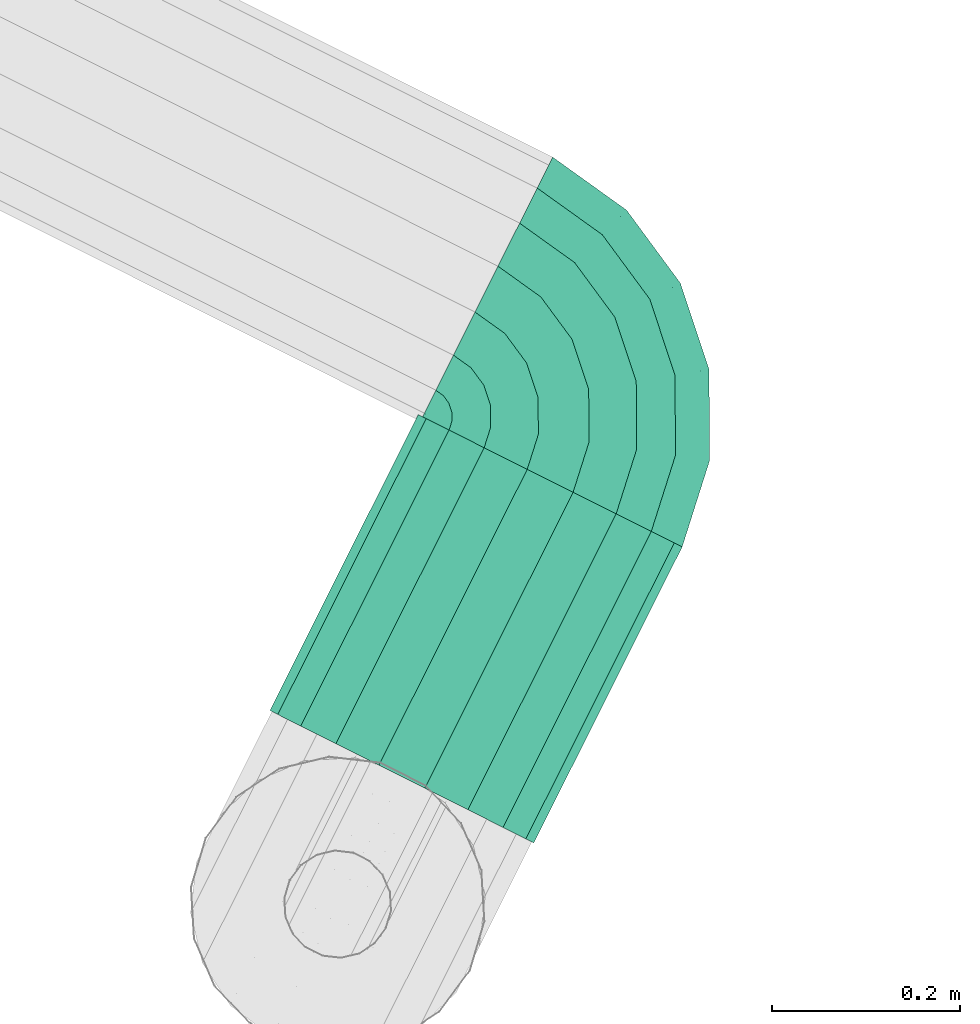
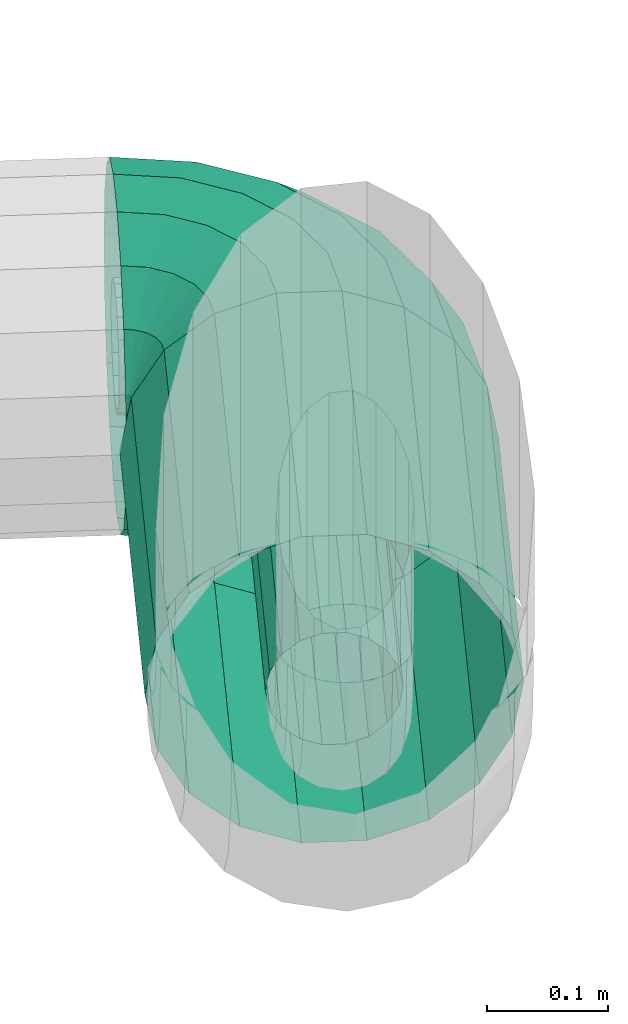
# One storey, part 37 of 206: 2 flow segments.
"""IFC2X3 building model written with IfcOpenShell, lengths in metres."""

import ifcopenshell
import ifcopenshell.guid

model = None  # the IFC model being written
_history = None  # IfcOwnerHistory: only IFC2X3 demands one
_inside = {}  # id of a spatial element -> (the spatial element, [elements in it])
_under = {}  # id of a project, library or spatial element -> (it, [spatial elements below it])
_declared = {}  # id of a project -> (the project, [libraries it declares])
_typed = {}  # id of a type object -> (the type object, [elements of that type])
_made_of = {}  # id of a material, layer set ... -> (it, [elements and type objects made of it])


def new_model(schema):
    """Start an empty IFC model of exactly this schema.

    Asked for "IFC4X3", IfcOpenShell would pick the latest addendum, in which some entities
    have other attributes; the version numbers below select the first issue.
    IFC2X3 requires an IfcOwnerHistory on every rooted entity: one is made here for all.
    """
    global model, _history
    if schema == "IFC4X3":
        model = ifcopenshell.file(schema_version=(4, 3, 0, 0))
    else:
        model = ifcopenshell.file(schema=schema)
    _inside.clear()
    _under.clear()
    _declared.clear()
    _typed.clear()
    _made_of.clear()
    _history = None
    if model.schema == "IFC2X3":
        org = make("IfcOrganization", Name="unknown")
        user = make(
            "IfcPersonAndOrganization",
            ThePerson=make("IfcPerson", FamilyName="unknown"),
            TheOrganization=org,
        )
        app = make(
            "IfcApplication",
            ApplicationDeveloper=org,
            Version="unknown",
            ApplicationFullName="unknown",
            ApplicationIdentifier="unknown",
        )
        _history = make(
            "IfcOwnerHistory",
            OwningUser=user,
            OwningApplication=app,
            ChangeAction="ADDED",
            CreationDate=0,
        )
    return model


def make(cls, **values):
    """One entity of the class cls with the attributes given. An attribute that is None is left unset."""
    return model.create_entity(
        cls, **{name: value for name, value in values.items() if value is not None}
    )


def rooted(cls, **values):
    """An entity with a GlobalId (a new one), such as an element, a storey or a relation."""
    return make(cls, GlobalId=ifcopenshell.guid.new(), OwnerHistory=_history, **values)


def si_unit(unit_type, name, prefix=None):
    """IfcSIUnit, for example si_unit("LENGTHUNIT", "METRE", prefix="MILLI")."""
    return make("IfcSIUnit", UnitType=unit_type, Prefix=prefix, Name=name)


def derived_unit(unit_type, elements):
    """IfcDerivedUnit: a product of units, each with its exponent."""
    return make(
        "IfcDerivedUnit",
        Elements=[
            make("IfcDerivedUnitElement", Unit=unit, Exponent=power)
            for unit, power in elements
        ],
        UnitType=unit_type,
    )


def assignment(units):
    """IfcUnitAssignment: the units of a project."""
    return None if units is None else make("IfcUnitAssignment", Units=units)


def point(xyz):
    """IfcCartesianPoint."""
    return None if xyz is None else make("IfcCartesianPoint", Coordinates=xyz)


def direction(xyz):
    """IfcDirection."""
    return None if xyz is None else make("IfcDirection", DirectionRatios=xyz)


def frame(location, z_axis=None, x_axis=None):
    """IfcAxis2Placement3D, a coordinate frame: its origin and axes. An axis left out is left unset."""
    return make(
        "IfcAxis2Placement3D",
        Location=point(location),
        Axis=direction(z_axis),
        RefDirection=direction(x_axis),
    )


def origin():
    """The frame at (0, 0, 0) with its axes left unset."""
    return frame((0.0, 0.0, 0.0))


def place(relative_to, where):
    """IfcLocalPlacement: puts the frame where relative to a parent placement (None: the world)."""
    return make(
        "IfcLocalPlacement", PlacementRelTo=relative_to, RelativePlacement=where
    )


def context(
    kind, dimensions, precision=None, world=None, true_north=None, identifier=None
):
    """IfcGeometricRepresentationContext, for example the 3D "Model" context."""
    return make(
        "IfcGeometricRepresentationContext",
        ContextIdentifier=identifier,
        ContextType=kind,
        CoordinateSpaceDimension=dimensions,
        Precision=precision,
        WorldCoordinateSystem=world,
        TrueNorth=true_north,
    )


def subcontext(parent, identifier, kind, view, scale=None):
    """IfcGeometricRepresentationSubContext, for example "Body" below "Model"."""
    return make(
        "IfcGeometricRepresentationSubContext",
        ContextIdentifier=identifier,
        ContextType=kind,
        ParentContext=parent,
        TargetScale=scale,
        TargetView=view,
    )


def project(units=None, contexts=None):
    """IfcProject with its units and contexts."""
    return rooted(
        "IfcProject",
        Name="project",
        RepresentationContexts=contexts,
        UnitsInContext=assignment(units),
    )


def spatial(cls, under=None, at=None, **own):
    """A site, building, storey or space (cls), placed at a placement, below another one or the project."""
    s = rooted(cls, ObjectPlacement=at, **own)
    if under is not None:
        _under.setdefault(under.id(), (under, []))[1].append(s)
    return s


def faces_of(points, faces, orient=None, outer=None):
    """IfcFace entities. A face is a list of loops; a loop is a list of indices into points, from 0.

    orient and outer hold one flag for each loop. By default every Orientation is true, the
    first loop of a face is its IfcFaceOuterBound and the others are IfcFaceBound.
    """
    made = []
    for i, loops in enumerate(faces):
        bounds = []
        for j, loop in enumerate(loops):
            is_outer = j == 0 if outer is None else outer[i][j]
            bounds.append(
                make(
                    "IfcFaceOuterBound" if is_outer else "IfcFaceBound",
                    Bound=make("IfcPolyLoop", Polygon=[points[k] for k in loop]),
                    Orientation=True if orient is None else orient[i][j],
                )
            )
        made.append(make("IfcFace", Bounds=bounds))
    return made


def face_set(faces, orient=None, outer=None):
    """The faces of one IfcConnectedFaceSet. surface_model builds it on its shared points."""
    return ("IfcConnectedFaceSet", faces, orient, outer)


def surface_model(cls, points, shells):
    """IfcFaceBasedSurfaceModel or IfcShellBasedSurfaceModel (cls): surfaces that need not close."""
    shared = [point(p) for p in points]
    made = [make(c, CfsFaces=faces_of(shared, fs, o, b)) for c, fs, o, b in shells]
    if cls == "IfcFaceBasedSurfaceModel":
        return make(cls, FbsmFaces=made)
    return make(cls, SbsmBoundary=made)


def shape(context_of_items, identifier, shape_type, items):
    """IfcShapeRepresentation: the items that make up one representation, for example the "Body"."""
    return make(
        "IfcShapeRepresentation",
        ContextOfItems=context_of_items,
        RepresentationIdentifier=identifier,
        RepresentationType=shape_type,
        Items=items,
    )


def source(mapping_origin, context_of_items, identifier, shape_type, items):
    """IfcRepresentationMap: a shape defined once, which mapped items show again and again."""
    return make(
        "IfcRepresentationMap",
        MappingOrigin=mapping_origin,
        MappedRepresentation=shape(context_of_items, identifier, shape_type, items),
    )


def transform(
    local_origin,
    x_axis=None,
    y_axis=None,
    z_axis=None,
    scale=None,
    scale2=None,
    scale3=None,
    uniform=True,
):
    """IfcCartesianTransformationOperator3D, or its non-uniform kind. x_axis, y_axis, z_axis: its Axis1, 2, 3."""
    if uniform:
        return make(
            "IfcCartesianTransformationOperator3D",
            Axis1=direction(x_axis),
            Axis2=direction(y_axis),
            LocalOrigin=point(local_origin),
            Scale=scale,
            Axis3=direction(z_axis),
        )
    return make(
        "IfcCartesianTransformationOperator3DnonUniform",
        Axis1=direction(x_axis),
        Axis2=direction(y_axis),
        LocalOrigin=point(local_origin),
        Scale=scale,
        Axis3=direction(z_axis),
        Scale2=scale2,
        Scale3=scale3,
    )


def mapped(mapping_source, mapping_target):
    """IfcMappedItem: shows the shape of a source again, moved by a transform."""
    return make(
        "IfcMappedItem", MappingSource=mapping_source, MappingTarget=mapping_target
    )


def material(Name=None, Category=None):
    """IfcMaterial."""
    return make("IfcMaterial", Name=Name, Category=Category)


def made_of(thing, what):
    """Note that an element or type object is made of a material, layer set ...; save() writes the relation."""
    if what is not None:
        _made_of.setdefault(what.id(), (what, []))[1].append(thing)
    return thing


def type_object(cls, material=None, **own):
    """A type object (cls), such as IfcWallType, which elements share."""
    return made_of(rooted(cls, **own), material)


def type_shapes(of_type, sources):
    """Give a type object the sources (RepresentationMaps) that its elements show as mapped items."""
    of_type.RepresentationMaps = sources


def element(
    cls,
    number,
    at=None,
    inside=None,
    cuts=None,
    type_object=None,
    material=None,
    context=None,
    identifier="Body",
    shape_type=None,
    held_by="IfcProductDefinitionShape",
    body=None,
    shapes=None,
    **own,
):
    """One element of the class cls, such as IfcWall. Its Tag is "e" and its number.

    at: its placement. inside: the storey or other place that contains it. cuts: it is an
    opening in that element (IfcRelVoidsElement). A single representation is given by context,
    identifier, shape_type and body (its items); several are given by shapes. held_by: the class
    of the entity that holds the representations. save() writes the other relations.
    """
    e = rooted(cls, Tag="e%d" % number, ObjectPlacement=at, **own)
    if body is not None:
        shapes = [shape(context, identifier, shape_type, body)]
    if shapes is not None:
        e.Representation = make(held_by, Representations=shapes)
    if inside is not None:
        _inside.setdefault(inside.id(), (inside, []))[1].append(e)
    if cuts is not None:
        rooted(
            "IfcRelVoidsElement", RelatingBuildingElement=cuts, RelatedOpeningElement=e
        )
    if type_object is not None:
        _typed.setdefault(type_object.id(), (type_object, []))[1].append(e)
    return made_of(e, material)


def aggregate(whole, parts):
    """IfcRelAggregates: a whole, such as a stair, and the parts it consists of."""
    return rooted("IfcRelAggregates", RelatingObject=whole, RelatedObjects=parts)


def save(model, path):
    """Write the relations noted so far, then the file.

    IfcRelAggregates (storeys below a building ...), IfcRelContainedInSpatialStructure (elements
    in a storey), IfcRelDefinesByType, IfcRelAssociatesMaterial and IfcRelDeclares: one each for
    every whole, place, type object, material and project.
    """
    for whole, parts in _under.values():
        aggregate(whole, parts)
    for where, things in _inside.values():
        rooted(
            "IfcRelContainedInSpatialStructure",
            RelatedElements=things,
            RelatingStructure=where,
        )
    for kind, things in _typed.values():
        rooted("IfcRelDefinesByType", RelatedObjects=things, RelatingType=kind)
    for what, things in _made_of.values():
        rooted("IfcRelAssociatesMaterial", RelatedObjects=things, RelatingMaterial=what)
    for by, libraries in _declared.values():
        rooted("IfcRelDeclares", RelatingContext=by, RelatedDefinitions=libraries)
    model.write(path)


model = new_model("IFC2X3")

# Units and contexts
model_context = context("Model", 3, precision=5.2338327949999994e-05, world=origin(), true_north=direction((0.0, 1.0)))
body_context = subcontext(model_context, "Body", "Model", "MODEL_VIEW")
ifc_project = project(units=[si_unit("LENGTHUNIT", "METRE"), si_unit("AREAUNIT", "SQUARE_METRE"), si_unit("VOLUMEUNIT", "CUBIC_METRE"), si_unit("MASSUNIT", "GRAM", prefix="KILO"), si_unit("PLANEANGLEUNIT", "RADIAN"), derived_unit("THERMALTRANSMITTANCEUNIT", [(si_unit("MASSUNIT", "GRAM", prefix="KILO"), 1), (si_unit("THERMODYNAMICTEMPERATUREUNIT", "KELVIN"), -1), (si_unit("TIMEUNIT", "SECOND"), -3)])], contexts=[model_context])

# Site, building, storey
site_placement = place(None, frame((0.0, 0.0, 0.0), z_axis=(0.0, 0.0, 1.0), x_axis=(0.8939966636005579, -0.4480736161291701, 0.0)))
site = spatial("IfcSite", under=ifc_project, at=site_placement, Name="Default", CompositionType="ELEMENT")
building_placement = place(site_placement, origin())
building = spatial("IfcBuilding", under=site, at=building_placement, CompositionType="ELEMENT")
storey_placement = place(building_placement, origin())
storey = spatial("IfcBuildingStorey", under=building, at=storey_placement, Name="Erdgeschoss", CompositionType="ELEMENT", Elevation=0.0)

# Flow segments
ifc_material = material(Name="IfcSurfaceStyle #1741")
distribution_element_type_1 = type_object("IfcDistributionElementType", Name="Rohrbogen 292589:Rohrbogen 292589", material=ifc_material)
shared_shape_1 = source(origin(), body_context, "Body", "SurfaceModel", [
    surface_model("IfcFaceBasedSurfaceModel", [(17.538863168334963, 8.059122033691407, 2.317798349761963), (17.47423222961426, 8.069358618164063, 2.317798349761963), (17.53779811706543, 8.055843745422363, 2.3373448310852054), (17.47423222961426, 8.065911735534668, 2.3373448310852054), (17.597167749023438, 8.029414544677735, 2.317798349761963), (17.595142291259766, 8.026625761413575, 2.3373448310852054), (17.64343818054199, 7.983143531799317, 2.317798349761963), (17.640649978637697, 7.981118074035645, 2.3373448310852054), (17.673145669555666, 7.9248395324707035, 2.317798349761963), (17.669867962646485, 7.923774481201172, 2.3373448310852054), (17.68338225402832, 7.86020859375, 2.317798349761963), (17.67993595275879, 7.86020859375, 2.3373448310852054), (17.47423222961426, 8.055987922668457, 2.354533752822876), (17.534732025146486, 8.046405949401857, 2.354533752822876), (17.589308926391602, 8.01859718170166, 2.354533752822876), (17.63262139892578, 7.975284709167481, 2.354533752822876), (17.66043016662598, 7.920707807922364, 2.354533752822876), (17.670012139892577, 7.86020859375, 2.354533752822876), (17.530033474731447, 8.031945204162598, 2.3672916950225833), (17.47423222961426, 8.040783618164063, 2.3672916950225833), (17.580372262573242, 8.006296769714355, 2.3672916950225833), (17.620320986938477, 7.966347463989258, 2.3672916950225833), (17.64596942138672, 7.916009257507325, 2.3672916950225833), (17.65480725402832, 7.86020859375, 2.3672916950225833), (17.47423222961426, 8.022132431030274, 2.3740802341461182), (17.524269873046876, 8.014207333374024, 2.3740802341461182), (17.569408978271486, 7.991207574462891, 2.3740802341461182), (17.605231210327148, 7.955384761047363, 2.3740802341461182), (17.62823096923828, 7.910245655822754, 2.3740802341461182), (17.636156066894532, 7.86020859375, 2.3740802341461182), (17.518136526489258, 7.995330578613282, 2.3740802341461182), (17.47423222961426, 8.00228422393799, 2.3740802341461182), (17.557742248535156, 7.975150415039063, 2.3740802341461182), (17.58917405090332, 7.9437186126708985, 2.3740802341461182), (17.60935421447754, 7.9041123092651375, 2.3740802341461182), (17.61630844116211, 7.86020859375, 2.3740802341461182), (17.47423222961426, 7.983633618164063, 2.3672916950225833), (17.512372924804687, 7.977592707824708, 2.3672916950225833), (17.546780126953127, 7.960061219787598, 2.3672916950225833), (17.57408543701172, 7.932755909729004, 2.3672916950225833), (17.59161692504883, 7.898348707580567, 2.3672916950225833), (17.59765725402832, 7.86020859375, 2.3672916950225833), (17.507674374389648, 7.963132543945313, 2.354533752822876), (17.47423222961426, 7.968428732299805, 2.354533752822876), (17.537843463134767, 7.947760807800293, 2.354533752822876), (17.561785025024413, 7.923818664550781, 2.354533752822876), (17.57715617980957, 7.893650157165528, 2.354533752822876), (17.58245353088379, 7.86020859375, 2.354533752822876), (17.504608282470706, 7.953694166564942, 2.3373448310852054), (17.47423222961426, 7.958504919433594, 2.3373448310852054), (17.532010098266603, 7.9397322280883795, 2.3373448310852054), (17.5537564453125, 7.917985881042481, 2.3373448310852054), (17.567718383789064, 7.8905834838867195, 2.3373448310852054), (17.572528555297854, 7.86020859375, 2.3373448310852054), (17.503543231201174, 7.950415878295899, 2.317798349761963), (17.47423222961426, 7.955058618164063, 2.317798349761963), (17.529983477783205, 7.9369434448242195, 2.317798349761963), (17.550968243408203, 7.915959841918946, 2.317798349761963), (17.564440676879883, 7.889518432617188, 2.317798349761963), (17.56908225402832, 7.86020859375, 2.317798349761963), (17.47423222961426, 7.958504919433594, 2.298252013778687), (17.504608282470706, 7.953694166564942, 2.298252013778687), (17.532010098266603, 7.9397322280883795, 2.298252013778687), (17.5537564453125, 7.917985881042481, 2.298252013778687), (17.567718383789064, 7.8905834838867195, 2.298252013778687), (17.572528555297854, 7.86020859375, 2.298252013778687), (17.47423222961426, 7.968428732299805, 2.2810630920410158), (17.507674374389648, 7.963132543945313, 2.2810630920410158), (17.537843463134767, 7.947760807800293, 2.2810630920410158), (17.561785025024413, 7.923818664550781, 2.2810630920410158), (17.57715617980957, 7.893650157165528, 2.2810630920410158), (17.58245353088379, 7.86020859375, 2.2810630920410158), (17.47423222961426, 7.983633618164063, 2.268305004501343), (17.512372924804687, 7.977592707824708, 2.268305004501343), (17.546780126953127, 7.960061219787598, 2.268305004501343), (17.57408543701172, 7.932755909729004, 2.268305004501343), (17.59161692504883, 7.898348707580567, 2.268305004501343), (17.59765725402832, 7.86020859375, 2.268305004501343), (17.47423222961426, 8.00228422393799, 2.2615166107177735), (17.518136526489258, 7.995330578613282, 2.2615166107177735), (17.557742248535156, 7.975150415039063, 2.2615166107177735), (17.58917405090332, 7.9437186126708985, 2.2615166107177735), (17.60935421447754, 7.9041123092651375, 2.2615166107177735), (17.61630844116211, 7.86020859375, 2.2615166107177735), (17.47423222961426, 8.022132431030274, 2.2615166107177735), (17.524269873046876, 8.014207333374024, 2.2615166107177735), (17.569408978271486, 7.991207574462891, 2.2615166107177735), (17.605231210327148, 7.955384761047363, 2.2615166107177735), (17.62823096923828, 7.910245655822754, 2.2615166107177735), (17.636156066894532, 7.86020859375, 2.2615166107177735), (17.530033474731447, 8.031945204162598, 2.268305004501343), (17.47423222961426, 8.040783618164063, 2.268305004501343), (17.580372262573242, 8.006296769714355, 2.268305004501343), (17.620320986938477, 7.966347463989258, 2.268305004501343), (17.64596942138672, 7.916009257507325, 2.268305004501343), (17.65480725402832, 7.86020859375, 2.268305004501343), (17.47423222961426, 8.055987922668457, 2.2810630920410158), (17.534732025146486, 8.046405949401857, 2.2810630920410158), (17.589308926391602, 8.01859718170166, 2.2810630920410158), (17.63262139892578, 7.975284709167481, 2.2810630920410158), (17.66043016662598, 7.920707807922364, 2.2810630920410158), (17.670012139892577, 7.86020859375, 2.2810630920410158), (17.53779811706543, 8.055843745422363, 2.298252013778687), (17.47423222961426, 8.065911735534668, 2.298252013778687), (17.595142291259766, 8.026625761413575, 2.298252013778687), (17.640649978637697, 7.981118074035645, 2.298252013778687), (17.569764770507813, 8.15422727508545, 2.317798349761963), (17.47423222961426, 8.169358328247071, 2.317798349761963), (17.47423222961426, 8.15988099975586, 2.3715468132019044), (17.566835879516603, 8.145213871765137, 2.3715468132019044), (17.65594671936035, 8.110316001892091, 2.317798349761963), (17.65037612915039, 8.102648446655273, 2.3715468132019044), (17.72434021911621, 8.041921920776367, 2.317798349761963), (17.71667324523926, 8.036351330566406, 2.3715468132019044), (17.76825149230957, 7.955741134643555, 2.317798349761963), (17.75923808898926, 7.952812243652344, 2.3715468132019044), (17.783381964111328, 7.86020859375, 2.317798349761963), (17.773904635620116, 7.86020859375, 2.3715468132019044), (17.558403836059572, 8.119260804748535, 2.4188125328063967), (17.47423222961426, 8.132592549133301, 2.4188125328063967), (17.634335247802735, 8.080571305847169, 2.4188125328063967), (17.69459552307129, 8.020311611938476, 2.4188125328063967), (17.73328502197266, 7.944379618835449, 2.4188125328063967), (17.746616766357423, 7.86020859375, 2.4188125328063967), (17.54548369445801, 8.07949811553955, 2.453894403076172), (17.47423222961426, 8.090783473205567, 2.453894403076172), (17.609761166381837, 8.046747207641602, 2.453894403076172), (17.660772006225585, 7.995736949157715, 2.453894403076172), (17.693522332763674, 7.931460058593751, 2.453894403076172), (17.70480769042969, 7.86020859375, 2.453894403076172), (17.47423222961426, 8.039497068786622, 2.472560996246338), (17.52963582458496, 8.030722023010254, 2.472560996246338), (17.57961533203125, 8.005256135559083, 2.472560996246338), (17.619280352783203, 7.965591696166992, 2.472560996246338), (17.644746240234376, 7.91561160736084, 2.472560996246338), (17.653521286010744, 7.86020859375, 2.472560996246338), (17.512770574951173, 7.978815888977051, 2.472560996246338), (17.47423222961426, 7.984919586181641, 2.472560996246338), (17.547535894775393, 7.961101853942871, 2.472560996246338), (17.57512607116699, 7.9335116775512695, 2.472560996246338), (17.592840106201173, 7.898746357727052, 2.472560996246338), (17.5989432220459, 7.86020859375, 2.472560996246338), (17.47423222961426, 7.933633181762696, 2.453894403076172), (17.4969215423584, 7.930039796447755, 2.453894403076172), (17.517390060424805, 7.919610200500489, 2.453894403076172), (17.53363441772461, 7.903366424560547, 2.453894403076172), (17.544064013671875, 7.882897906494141, 2.453894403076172), (17.54765798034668, 7.86020859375, 2.453894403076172), (17.48400256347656, 7.89027710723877, 2.4188125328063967), (17.47423222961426, 7.891824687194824, 2.4188125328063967), (17.492815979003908, 7.885786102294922, 2.4188125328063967), (17.499810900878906, 7.878791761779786, 2.4188125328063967), (17.50430132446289, 7.8699783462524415, 2.4188125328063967), (17.505848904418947, 7.86020859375, 2.4188125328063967), (17.47423222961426, 7.864535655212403, 2.3715468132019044), (17.475569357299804, 7.864324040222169, 2.3715468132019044), (17.476776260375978, 7.86370954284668, 2.3715468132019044), (17.47773317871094, 7.862752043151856, 2.3715468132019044), (17.47834825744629, 7.861545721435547, 2.3715468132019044), (17.478559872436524, 7.86020859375, 2.3715468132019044), (17.47423222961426, 7.860208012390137, 2.347004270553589), (17.47497520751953, 7.860208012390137, 2.3476719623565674), (17.47423222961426, 7.860208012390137, 2.288592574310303), (17.47497520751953, 7.860208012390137, 2.2879248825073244), (17.475569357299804, 7.864324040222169, 2.2640498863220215), (17.47423222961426, 7.864535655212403, 2.2640498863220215), (17.476776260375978, 7.86370954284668, 2.2640498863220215), (17.47773317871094, 7.862752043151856, 2.2640498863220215), (17.47834825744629, 7.861545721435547, 2.2640498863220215), (17.478559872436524, 7.86020859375, 2.2640498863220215), (17.47423222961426, 7.891824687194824, 2.216784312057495), (17.48400256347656, 7.89027710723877, 2.216784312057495), (17.492815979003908, 7.885786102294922, 2.216784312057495), (17.499810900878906, 7.878791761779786, 2.216784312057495), (17.50430132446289, 7.8699783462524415, 2.216784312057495), (17.505848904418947, 7.86020859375, 2.216784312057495), (17.47423222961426, 7.933633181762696, 2.1817025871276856), (17.4969215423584, 7.930039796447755, 2.1817025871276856), (17.517390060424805, 7.919610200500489, 2.1817025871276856), (17.53363441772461, 7.903366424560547, 2.1817025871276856), (17.544064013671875, 7.882897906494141, 2.1817025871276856), (17.54765798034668, 7.86020859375, 2.1817025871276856), (17.47423222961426, 7.984919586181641, 2.163035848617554), (17.512770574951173, 7.978815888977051, 2.163035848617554), (17.547535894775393, 7.961101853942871, 2.163035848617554), (17.57512607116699, 7.9335116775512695, 2.163035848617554), (17.592840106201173, 7.898746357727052, 2.163035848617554), (17.5989432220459, 7.86020859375, 2.163035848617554), (17.52963582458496, 8.030722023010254, 2.163035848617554), (17.47423222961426, 8.039497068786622, 2.163035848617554), (17.57961533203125, 8.005256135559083, 2.163035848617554), (17.619280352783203, 7.965591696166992, 2.163035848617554), (17.644746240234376, 7.91561160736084, 2.163035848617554), (17.653521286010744, 7.86020859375, 2.163035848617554), (17.47423222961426, 8.090783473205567, 2.1817025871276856), (17.54548369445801, 8.07949811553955, 2.1817025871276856), (17.609761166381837, 8.046747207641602, 2.1817025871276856), (17.660772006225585, 7.995736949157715, 2.1817025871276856), (17.693522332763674, 7.931460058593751, 2.1817025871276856), (17.70480769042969, 7.86020859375, 2.1817025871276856), (17.47423222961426, 8.132592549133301, 2.216784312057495), (17.558403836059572, 8.119260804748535, 2.216784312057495), (17.634335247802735, 8.080571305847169, 2.216784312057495), (17.69459552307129, 8.020311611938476, 2.216784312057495), (17.73328502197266, 7.944379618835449, 2.216784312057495), (17.746616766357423, 7.86020859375, 2.216784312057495), (17.47423222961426, 8.15988099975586, 2.2640498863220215), (17.566835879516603, 8.145213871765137, 2.2640498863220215), (17.65037612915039, 8.102648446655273, 2.2640498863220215), (17.71667324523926, 8.036351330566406, 2.2640498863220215), (17.75923808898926, 7.952812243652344, 2.2640498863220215), (17.773904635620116, 7.86020859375, 2.2640498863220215), (17.669867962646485, 7.923774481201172, 2.298252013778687), (17.67993595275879, 7.86020859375, 2.298252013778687)], [face_set([[[0, 1, 2]], [[3, 2, 1]], [[4, 0, 5]], [[2, 5, 0]], [[6, 4, 7]], [[5, 7, 4]], [[8, 6, 7]], [[7, 9, 8]], [[10, 8, 11]], [[9, 11, 8]], [[2, 3, 12]], [[12, 13, 2]], [[5, 2, 14]], [[13, 14, 2]], [[7, 5, 15]], [[14, 15, 5]], [[9, 7, 16]], [[15, 16, 7]], [[11, 9, 17]], [[16, 17, 9]], [[13, 12, 18]], [[19, 18, 12]], [[14, 13, 18]], [[18, 20, 14]], [[15, 14, 20]], [[20, 21, 15]], [[16, 15, 21]], [[21, 22, 16]], [[17, 16, 22]], [[22, 23, 17]], [[18, 19, 24]], [[24, 25, 18]], [[20, 18, 25]], [[25, 26, 20]], [[21, 20, 26]], [[26, 27, 21]], [[22, 21, 27]], [[27, 28, 22]], [[23, 22, 28]], [[28, 29, 23]], [[25, 24, 30]], [[31, 30, 24]], [[26, 25, 32]], [[30, 32, 25]], [[27, 26, 33]], [[32, 33, 26]], [[28, 27, 34]], [[33, 34, 27]], [[29, 28, 35]], [[34, 35, 28]], [[30, 31, 36]], [[36, 37, 30]], [[32, 30, 38]], [[37, 38, 30]], [[33, 32, 38]], [[38, 39, 33]], [[34, 33, 40]], [[39, 40, 33]], [[35, 34, 40]], [[40, 41, 35]], [[37, 36, 42]], [[43, 42, 36]], [[38, 37, 42]], [[42, 44, 38]], [[39, 38, 44]], [[44, 45, 39]], [[40, 39, 46]], [[45, 46, 39]], [[41, 40, 47]], [[46, 47, 40]], [[42, 43, 48]], [[49, 48, 43]], [[44, 42, 48]], [[48, 50, 44]], [[45, 44, 51]], [[50, 51, 44]], [[46, 45, 51]], [[51, 52, 46]], [[47, 46, 52]], [[52, 53, 47]], [[48, 49, 54]], [[55, 54, 49]], [[50, 48, 56]], [[54, 56, 48]], [[51, 50, 56]], [[56, 57, 51]], [[52, 51, 57]], [[57, 58, 52]], [[53, 52, 58]], [[58, 59, 53]], [[54, 55, 60]], [[60, 61, 54]], [[56, 54, 61]], [[61, 62, 56]], [[57, 56, 63]], [[62, 63, 56]], [[58, 57, 64]], [[63, 64, 57]], [[59, 58, 65]], [[64, 65, 58]], [[61, 60, 66]], [[66, 67, 61]], [[62, 61, 68]], [[67, 68, 61]], [[63, 62, 69]], [[68, 69, 62]], [[64, 63, 70]], [[69, 70, 63]], [[65, 64, 71]], [[70, 71, 64]], [[67, 66, 72]], [[72, 73, 67]], [[68, 67, 74]], [[73, 74, 67]], [[69, 68, 75]], [[74, 75, 68]], [[70, 69, 76]], [[75, 76, 69]], [[71, 70, 76]], [[76, 77, 71]], [[73, 72, 78]], [[78, 79, 73]], [[74, 73, 79]], [[79, 80, 74]], [[75, 74, 81]], [[80, 81, 74]], [[76, 75, 82]], [[81, 82, 75]], [[77, 76, 83]], [[82, 83, 76]], [[79, 78, 84]], [[84, 85, 79]], [[80, 79, 85]], [[85, 86, 80]], [[81, 80, 86]], [[86, 87, 81]], [[82, 81, 87]], [[87, 88, 82]], [[83, 82, 88]], [[88, 89, 83]], [[85, 84, 90]], [[91, 90, 84]], [[86, 85, 92]], [[90, 92, 85]], [[87, 86, 93]], [[92, 93, 86]], [[88, 87, 94]], [[93, 94, 87]], [[89, 88, 95]], [[94, 95, 88]], [[90, 91, 96]], [[96, 97, 90]], [[92, 90, 97]], [[97, 98, 92]], [[93, 92, 98]], [[98, 99, 93]], [[94, 93, 100]], [[99, 100, 93]], [[95, 94, 100]], [[100, 101, 95]], [[97, 96, 102]], [[103, 102, 96]], [[98, 97, 102]], [[102, 104, 98]], [[99, 98, 104]], [[104, 105, 99]], [[102, 103, 1]], [[1, 0, 102]], [[104, 102, 0]], [[0, 4, 104]], [[105, 104, 4]], [[4, 6, 105]], [[106, 107, 108]], [[108, 109, 106]], [[110, 106, 111]], [[109, 111, 106]], [[112, 110, 113]], [[111, 113, 110]], [[114, 112, 113]], [[113, 115, 114]], [[116, 114, 117]], [[115, 117, 114]], [[109, 108, 118]], [[119, 118, 108]], [[111, 109, 120]], [[118, 120, 109]], [[113, 111, 120]], [[120, 121, 113]], [[115, 113, 121]], [[121, 122, 115]], [[117, 115, 122]], [[122, 123, 117]], [[118, 119, 124]], [[125, 124, 119]], [[120, 118, 124]], [[124, 126, 120]], [[121, 120, 126]], [[126, 127, 121]], [[122, 121, 127]], [[127, 128, 122]], [[123, 122, 128]], [[128, 129, 123]], [[124, 125, 130]], [[130, 131, 124]], [[126, 124, 131]], [[131, 132, 126]], [[127, 126, 132]], [[132, 133, 127]], [[128, 127, 133]], [[133, 134, 128]], [[129, 128, 135]], [[134, 135, 128]], [[131, 130, 136]], [[137, 136, 130]], [[132, 131, 138]], [[136, 138, 131]], [[133, 132, 138]], [[138, 139, 133]], [[134, 133, 139]], [[139, 140, 134]], [[135, 134, 140]], [[140, 141, 135]], [[136, 137, 142]], [[142, 143, 136]], [[138, 136, 143]], [[143, 144, 138]], [[139, 138, 144]], [[144, 145, 139]], [[140, 139, 145]], [[145, 146, 140]], [[141, 140, 146]], [[146, 147, 141]], [[143, 142, 148]], [[149, 148, 142]], [[144, 143, 150]], [[148, 150, 143]], [[145, 144, 151]], [[150, 151, 144]], [[146, 145, 151]], [[151, 152, 146]], [[147, 146, 152]], [[152, 153, 147]], [[148, 149, 154]], [[154, 155, 148]], [[150, 148, 156]], [[155, 156, 148]], [[151, 150, 156]], [[156, 157, 151]], [[152, 151, 157]], [[157, 158, 152]], [[153, 152, 158]], [[158, 159, 153]], [[160, 155, 161]], [[160, 161, 154]], [[155, 154, 161]], [[156, 155, 160]], [[157, 156, 160]], [[158, 157, 160]], [[159, 158, 160]], [[162, 163, 164]], [[165, 164, 163]], [[163, 162, 165]], [[164, 166, 162]], [[162, 166, 167]], [[167, 168, 162]], [[168, 169, 162]], [[164, 165, 170]], [[170, 171, 164]], [[166, 164, 171]], [[171, 172, 166]], [[167, 166, 173]], [[172, 173, 166]], [[168, 167, 174]], [[173, 174, 167]], [[169, 168, 175]], [[174, 175, 168]], [[171, 170, 176]], [[176, 177, 171]], [[172, 171, 177]], [[177, 178, 172]], [[173, 172, 179]], [[178, 179, 172]], [[174, 173, 180]], [[179, 180, 173]], [[175, 174, 181]], [[180, 181, 174]], [[177, 176, 182]], [[182, 183, 177]], [[178, 177, 184]], [[183, 184, 177]], [[179, 178, 184]], [[184, 185, 179]], [[180, 179, 186]], [[185, 186, 179]], [[181, 180, 187]], [[186, 187, 180]], [[183, 182, 188]], [[189, 188, 182]], [[184, 183, 190]], [[188, 190, 183]], [[185, 184, 191]], [[190, 191, 184]], [[186, 185, 192]], [[191, 192, 185]], [[187, 186, 193]], [[192, 193, 186]], [[188, 189, 194]], [[194, 195, 188]], [[190, 188, 195]], [[195, 196, 190]], [[191, 190, 197]], [[196, 197, 190]], [[192, 191, 198]], [[197, 198, 191]], [[193, 192, 198]], [[198, 199, 193]], [[195, 194, 200]], [[200, 201, 195]], [[196, 195, 202]], [[201, 202, 195]], [[197, 196, 203]], [[202, 203, 196]], [[198, 197, 204]], [[203, 204, 197]], [[199, 198, 205]], [[204, 205, 198]], [[201, 200, 206]], [[206, 207, 201]], [[202, 201, 207]], [[207, 208, 202]], [[203, 202, 208]], [[208, 209, 203]], [[204, 203, 209]], [[209, 210, 204]], [[205, 204, 211]], [[210, 211, 204]], [[207, 206, 106]], [[107, 106, 206]], [[208, 207, 110]], [[106, 110, 207]], [[209, 208, 110]], [[110, 112, 209]], [[210, 209, 114]], [[112, 114, 209]], [[211, 210, 116]], [[114, 116, 210]], [[100, 99, 212]], [[105, 212, 99]], [[101, 100, 213]], [[212, 213, 100]], [[212, 105, 6]], [[6, 8, 212]], [[213, 212, 8]], [[8, 10, 213]]])]),
])
type_shapes(distribution_element_type_1, [shared_shape_1])
flow_segment_1_placement = place(storey_placement, origin())
element("IfcFlowSegment", 1, at=flow_segment_1_placement, inside=storey, type_object=distribution_element_type_1, material=ifc_material, Name="Rohrbogen", ObjectType="Rohrbogen", context=body_context, shape_type="MappedRepresentation", body=[
    mapped(shared_shape_1, transform((0.0, 0.0, 0.0), scale=1.0)),
])
distribution_element_type_2 = type_object("IfcDistributionElementType", Name="Stahlrohr nach DIN 2448 350827:Stahlrohr nach DIN 2448 350827", material=ifc_material)
shared_shape_2 = source(origin(), body_context, "Body", "SurfaceModel", [
    surface_model("IfcFaceBasedSurfaceModel", [(17.5690824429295, 7.507919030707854, 2.3177984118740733), (17.57252900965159, 7.507919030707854, 2.337344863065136), (17.57252900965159, 7.860208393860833, 2.3373448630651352), (17.5690824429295, 7.860208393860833, 2.3177984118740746), (17.582453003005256, 7.507919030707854, 2.354533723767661), (17.582453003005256, 7.860208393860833, 2.354533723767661), (17.5976574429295, 7.507919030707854, 2.367291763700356), (17.597657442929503, 7.860208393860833, 2.367291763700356), (17.616308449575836, 7.507919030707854, 2.3740801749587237), (17.616308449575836, 7.860208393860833, 2.3740801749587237), (17.63615643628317, 7.507919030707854, 2.3740801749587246), (17.63615643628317, 7.860208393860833, 2.3740801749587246), (17.654807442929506, 7.507919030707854, 2.3672917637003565), (17.654807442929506, 7.860208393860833, 2.3672917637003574), (17.67001188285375, 7.507919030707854, 2.3545337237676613), (17.67001188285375, 7.860208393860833, 2.3545337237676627), (17.67993587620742, 7.507919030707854, 2.337344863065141), (17.67993587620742, 7.860208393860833, 2.337344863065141), (17.6833824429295, 7.507919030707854, 2.317798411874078), (17.683382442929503, 7.860208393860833, 2.3177984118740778), (17.679935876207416, 7.507919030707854, 2.2982519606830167), (17.67993587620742, 7.860208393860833, 2.2982519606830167), (17.670011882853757, 7.507919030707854, 2.281063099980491), (17.670011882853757, 7.860208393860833, 2.281063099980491), (17.654807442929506, 7.507919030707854, 2.2683050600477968), (17.654807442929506, 7.860208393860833, 2.2683050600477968), (17.63615643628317, 7.507919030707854, 2.26151664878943), (17.636156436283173, 7.860208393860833, 2.26151664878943), (17.616308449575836, 7.507919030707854, 2.2615166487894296), (17.61630844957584, 7.860208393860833, 2.2615166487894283), (17.597657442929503, 7.507919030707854, 2.2683050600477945), (17.59765744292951, 7.860208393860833, 2.2683050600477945), (17.582453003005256, 7.507919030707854, 2.281063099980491), (17.582453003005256, 7.860208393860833, 2.281063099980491), (17.57252900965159, 7.507919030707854, 2.2982519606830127), (17.572529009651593, 7.860208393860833, 2.298251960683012), (17.4690824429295, 7.507919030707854, 2.317798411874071), (17.478559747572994, 7.507919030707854, 2.3715468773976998), (17.478559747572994, 7.860208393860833, 2.3715468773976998), (17.4690824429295, 7.860208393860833, 2.3177984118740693), (17.505848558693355, 7.507919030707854, 2.4188124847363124), (17.505848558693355, 7.860208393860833, 2.4188124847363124), (17.547657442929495, 7.507919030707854, 2.4538943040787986), (17.547657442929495, 7.860208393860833, 2.4538943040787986), (17.598943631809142, 7.507919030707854, 2.472560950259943), (17.59894363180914, 7.860208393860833, 2.4725609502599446), (17.65352125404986, 7.507919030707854, 2.4725609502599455), (17.653521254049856, 7.860208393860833, 2.472560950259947), (17.704807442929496, 7.507919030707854, 2.453894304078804), (17.7048074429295, 7.860208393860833, 2.4538943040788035), (17.746616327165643, 7.507919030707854, 2.4188124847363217), (17.746616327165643, 7.860208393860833, 2.4188124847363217), (17.773905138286, 7.507919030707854, 2.371546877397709), (17.773905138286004, 7.860208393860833, 2.3715468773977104), (17.783382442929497, 7.507919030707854, 2.317798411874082), (17.783382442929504, 7.860208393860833, 2.3177984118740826), (17.773905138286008, 7.507919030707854, 2.264049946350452), (17.773905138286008, 7.860208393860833, 2.264049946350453), (17.746616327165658, 7.507919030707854, 2.2167843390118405), (17.746616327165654, 7.860208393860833, 2.2167843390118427), (17.704807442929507, 7.507919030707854, 2.181702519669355), (17.704807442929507, 7.860208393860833, 2.1817025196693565), (17.65352125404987, 7.507919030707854, 2.163035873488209), (17.65352125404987, 7.860208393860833, 2.163035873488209), (17.598943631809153, 7.507919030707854, 2.1630358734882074), (17.598943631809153, 7.860208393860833, 2.1630358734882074), (17.54765744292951, 7.507919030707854, 2.181702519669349), (17.547657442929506, 7.860208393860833, 2.1817025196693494), (17.505848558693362, 7.507919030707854, 2.2167843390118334), (17.50584855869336, 7.860208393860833, 2.2167843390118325), (17.478559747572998, 7.507919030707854, 2.264049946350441), (17.478559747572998, 7.860208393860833, 2.264049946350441)], [face_set([[[0, 1, 2, 3]], [[1, 4, 5, 2]], [[4, 6, 7, 5]], [[6, 8, 9, 7]], [[8, 10, 11, 9]], [[10, 12, 13, 11]], [[12, 14, 15, 13]], [[14, 16, 17, 15]], [[16, 18, 19, 17]], [[18, 20, 21, 19]], [[20, 22, 23, 21]], [[22, 24, 25, 23]], [[24, 26, 27, 25]], [[26, 28, 29, 27]], [[28, 30, 31, 29]], [[30, 32, 33, 31]], [[32, 34, 35, 33]], [[34, 0, 3, 35]], [[36, 37, 38, 39]], [[37, 40, 41, 38]], [[40, 42, 43, 41]], [[42, 44, 45, 43]], [[44, 46, 47, 45]], [[46, 48, 49, 47]], [[48, 50, 51, 49]], [[50, 52, 53, 51]], [[52, 54, 55, 53]], [[54, 56, 57, 55]], [[56, 58, 59, 57]], [[58, 60, 61, 59]], [[60, 62, 63, 61]], [[62, 64, 65, 63]], [[64, 66, 67, 65]], [[66, 68, 69, 67]], [[68, 70, 71, 69]], [[70, 36, 39, 71]]])]),
])
type_shapes(distribution_element_type_2, [shared_shape_2])
flow_segment_2_placement = place(storey_placement, origin())
element("IfcFlowSegment", 2, at=flow_segment_2_placement, inside=storey, type_object=distribution_element_type_2, material=ifc_material, Name="Stahlrohr nach DIN 2448", ObjectType="Stahlrohr nach DIN 2448", context=body_context, shape_type="MappedRepresentation", body=[
    mapped(shared_shape_2, transform((0.0, 0.0, 0.0), scale=1.0)),
])

save(model, "model.ifc")
